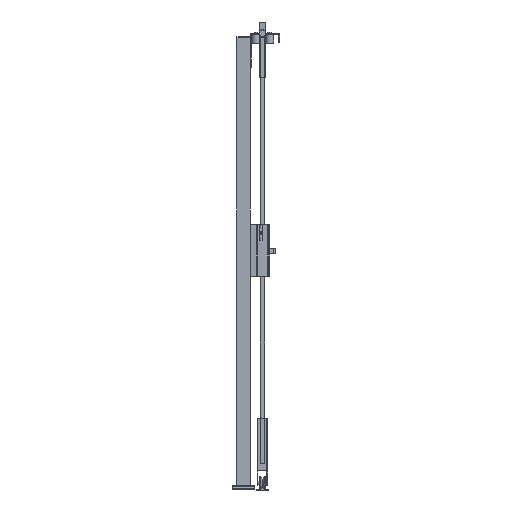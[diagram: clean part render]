
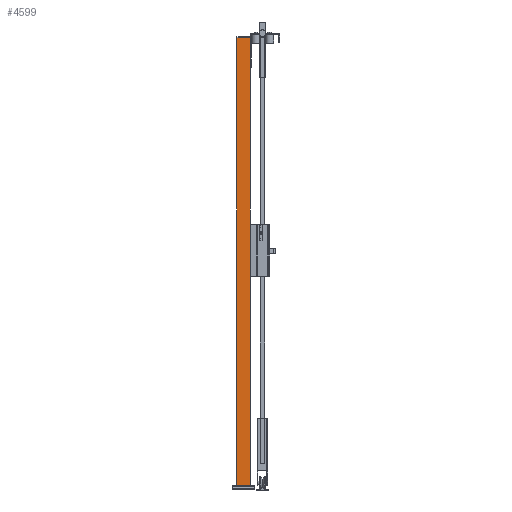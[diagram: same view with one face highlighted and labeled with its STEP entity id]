
A CAD part, left-side view. The second image highlights one B-rep face of the part: STEP entity #4599.
In plain terms, the highlighted planar face has unit normal (-1, 0, 0) as drawn and (0, 1, 0) by its records, which use the part's own axes.
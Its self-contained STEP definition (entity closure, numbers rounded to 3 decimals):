
#532=FACE_OUTER_BOUND('',#867,.T.);
#867=EDGE_LOOP('',(#2989,#2990,#2991,#2992));
#1260=VERTEX_POINT('',#9668);
#1261=VERTEX_POINT('',#9670);
#1263=VERTEX_POINT('',#9676);
#1266=VERTEX_POINT('',#9681);
#1933=EDGE_CURVE('',#1260,#1261,#5387,.T.);
#1939=EDGE_CURVE('',#1266,#1263,#5393,.T.);
#1942=EDGE_CURVE('',#1261,#1266,#5396,.T.);
#1943=EDGE_CURVE('',#1260,#1263,#5397,.T.);
#2989=ORIENTED_EDGE('',*,*,#1943,.T.);
#2990=ORIENTED_EDGE('',*,*,#1939,.F.);
#2991=ORIENTED_EDGE('',*,*,#1942,.F.);
#2992=ORIENTED_EDGE('',*,*,#1933,.F.);
#4310=PLANE('',#6808);
#4599=ADVANCED_FACE('',(#532),#4310,.F.);
#5387=LINE('',#9671,#6165);
#5393=LINE('',#9683,#6171);
#5396=LINE('',#9688,#6174);
#5397=LINE('',#9690,#6175);
#6165=VECTOR('',#7655,1.);
#6171=VECTOR('',#7663,1.);
#6174=VECTOR('',#7670,1.);
#6175=VECTOR('',#7673,1.);
#6808=AXIS2_PLACEMENT_3D('',#9689,#7671,#7672);
#7655=DIRECTION('',(-1.,0.,0.));
#7663=DIRECTION('',(1.,0.,0.));
#7670=DIRECTION('',(0.,0.,-1.));
#7671=DIRECTION('center_axis',(0.,-1.,0.));
#7672=DIRECTION('ref_axis',(0.,0.,-1.));
#7673=DIRECTION('',(0.,0.,-1.));
#9668=CARTESIAN_POINT('',(30.,30.,2020.));
#9670=CARTESIAN_POINT('',(-30.,30.,2020.));
#9671=CARTESIAN_POINT('',(0.,30.,2020.));
#9676=CARTESIAN_POINT('',(30.,30.,20.));
#9681=CARTESIAN_POINT('',(-30.,30.,20.));
#9683=CARTESIAN_POINT('',(0.,30.,20.));
#9688=CARTESIAN_POINT('',(-30.,30.,1020.));
#9689=CARTESIAN_POINT('Origin',(0.,30.,
1020.));
#9690=CARTESIAN_POINT('',(30.,30.,1020.));
